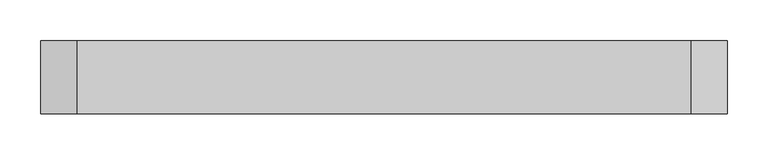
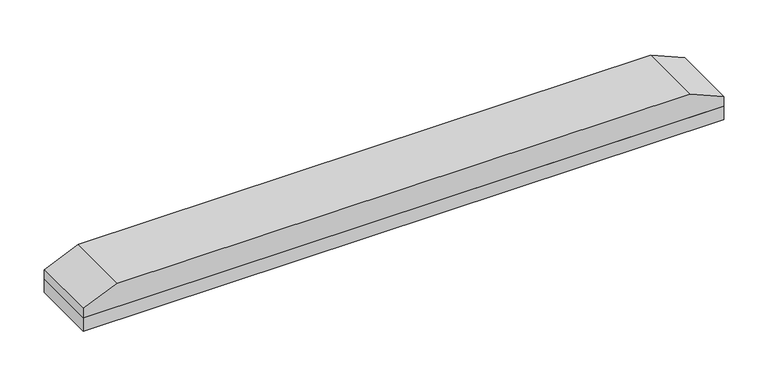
"""IFC4 building model written with IfcOpenShell, lengths in millimetres: proxy geometry, Spinneybeck_ARO Plank 8 : A - 2’-9” x 3 1/2” x 1 1/4”."""

from ifc_helpers import new_model, si_unit, frame, origin, origin_with_axes, place, context, project, spatial, polyline, outline, extrude, source, transform, mapped, element, save


def specialty_equipment_40f1bc00(model_context):
    return source(origin(), model_context, "Body", "SweptSolid", [
        extrude(outline(polyline([(19.05, -419.1), (19.05, 419.1), (31.75, 419.1), (50.8, 374.65), (50.8, -374.65), (31.75, -419.1), (19.05, -419.1)])), frame((0.0, -44.45, 0.0), z_axis=(0.0, 1.0, 0.0), x_axis=(0.0, 0.0, 1.0)), (0.0, 0.0, 1.0), 88.9),
        extrude(outline(polyline([(-419.1, -44.45), (-419.1, 44.45), (419.1, 44.45), (419.1, -44.45), (-419.1, -44.45)])), origin_with_axes(), (0.0, 0.0, 1.0), 19.05),
    ])


if __name__ == "__main__":
    model = new_model("IFC4")
    model_context = context("Model", 3, world=origin())
    ifc_project = project(units=[si_unit("LENGTHUNIT", "METRE", prefix="MILLI")], contexts=[model_context])
    site = spatial("IfcSite", under=ifc_project)
    building = spatial("IfcBuilding", under=site)
    placement = place(None, origin())
    specialty_equipment_shape = specialty_equipment_40f1bc00(model_context)
    element("IfcBuildingElementProxy", 1, Name="Spinneybeck_ARO Plank 8 : A - 2’-9” x 3 1/2” x 1 1/4”", ObjectType="Spinneybeck_ARO Plank 8 : A - 2’-9” x 3 1/2” x 1 1/4”", at=placement, inside=building, context=model_context, shape_type="MappedRepresentation", body=[
        mapped(specialty_equipment_shape, transform((0.0, 0.0, 0.0), x_axis=(1.0, 0.0, 0.0), y_axis=(0.0, 1.0, 0.0), z_axis=(0.0, 0.0, 1.0))),
    ])
    save(model, "model.ifc")
